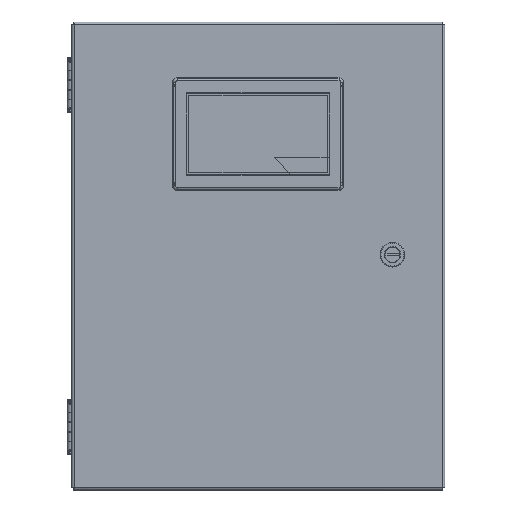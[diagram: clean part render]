
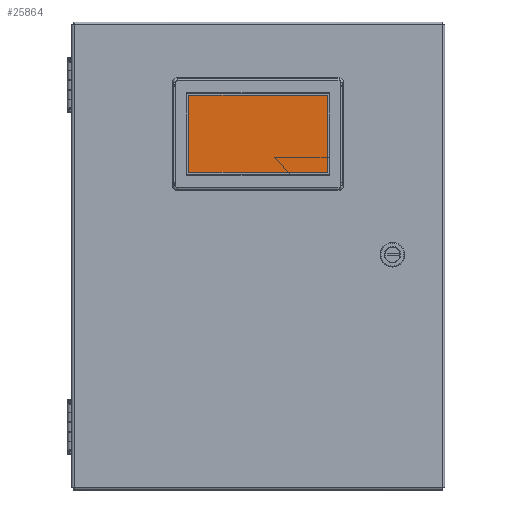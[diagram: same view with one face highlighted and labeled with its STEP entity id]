
A CAD part, top view. The second image highlights one B-rep face of the part: STEP entity #25864.
In plain terms, the highlighted planar face has unit normal (0, 0, 1).
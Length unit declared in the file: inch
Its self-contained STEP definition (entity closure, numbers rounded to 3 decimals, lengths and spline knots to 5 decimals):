
#694 = ORIENTED_EDGE ( 'NONE', *, *, #16546, .T. ) ;
#2205 = LINE ( 'NONE', #31064, #17990 ) ;
#2380 = EDGE_LOOP ( 'NONE', ( #13381, #3404, #12625, #694 ) ) ;
#2556 = EDGE_CURVE ( 'NONE', #24038, #9671, #13071, .T. ) ;
#3015 = VERTEX_POINT ( 'NONE', #31383 ) ;
#3404 = ORIENTED_EDGE ( 'NONE', *, *, #10862, .T. ) ;
#4183 = CARTESIAN_POINT ( 'NONE',  ( 0.69131, 14.76115, 21.91912 ) ) ;
#6642 = DIRECTION ( 'NONE',  ( 1., 0., 0. ) ) ;
#6889 = LINE ( 'NONE', #22333, #24793 ) ;
#7538 = DIRECTION ( 'NONE',  ( 0., 1., 0. ) ) ;
#9671 = VERTEX_POINT ( 'NONE', #15530 ) ;
#10862 = EDGE_CURVE ( 'NONE', #25553, #24038, #2205, .T. ) ;
#10973 = CARTESIAN_POINT ( 'NONE',  ( 6.75745, 14.76115, 21.91912 ) ) ;
#12625 = ORIENTED_EDGE ( 'NONE', *, *, #2556, .T. ) ;
#12743 = CARTESIAN_POINT ( 'NONE',  ( 6.75745, 11.37847, 21.91912 ) ) ;
#12903 = DIRECTION ( 'NONE',  ( 1., 0., 0. ) ) ;
#13071 = LINE ( 'NONE', #12743, #29248 ) ;
#13381 = ORIENTED_EDGE ( 'NONE', *, *, #21083, .T. ) ;
#15530 = CARTESIAN_POINT ( 'NONE',  ( 6.75745, 11.37847, 21.91912 ) ) ;
#16546 = EDGE_CURVE ( 'NONE', #9671, #3015, #28804, .T. ) ;
#17990 = VECTOR ( 'NONE', #27939, 39.37008 ) ;
#19838 = CARTESIAN_POINT ( 'NONE',  ( 3.72438, 13.06981, 21.91912 ) ) ;
#19911 = AXIS2_PLACEMENT_3D ( 'NONE', #19838, #30367, #6642 ) ;
#21083 = EDGE_CURVE ( 'NONE', #3015, #25553, #6889, .T. ) ;
#22288 = VECTOR ( 'NONE', #7538, 39.37008 ) ;
#22333 = CARTESIAN_POINT ( 'NONE',  ( 0.69131, 14.76115, 21.91912 ) ) ;
#24038 = VERTEX_POINT ( 'NONE', #33019 ) ;
#24793 = VECTOR ( 'NONE', #24921, 39.37008 ) ;
#24921 = DIRECTION ( 'NONE',  ( -1., 0., 0. ) ) ;
#25553 = VERTEX_POINT ( 'NONE', #4183 ) ;
#25864 = ADVANCED_FACE ( 'NONE', ( #29668 ), #27761, .T. ) ;
#27761 = PLANE ( 'NONE',  #19911 ) ;
#27939 = DIRECTION ( 'NONE',  ( 0., -1., 0. ) ) ;
#28804 = LINE ( 'NONE', #10973, #22288 ) ;
#29248 = VECTOR ( 'NONE', #12903, 39.37008 ) ;
#29668 = FACE_OUTER_BOUND ( 'NONE', #2380, .T. ) ;
#30367 = DIRECTION ( 'NONE',  ( 0., 0., 1. ) ) ;
#31064 = CARTESIAN_POINT ( 'NONE',  ( 0.69131, 11.37847, 21.91912 ) ) ;
#31383 = CARTESIAN_POINT ( 'NONE',  ( 6.75745, 14.76115, 21.91912 ) ) ;
#33019 = CARTESIAN_POINT ( 'NONE',  ( 0.69131, 11.37847, 21.91912 ) ) ;
